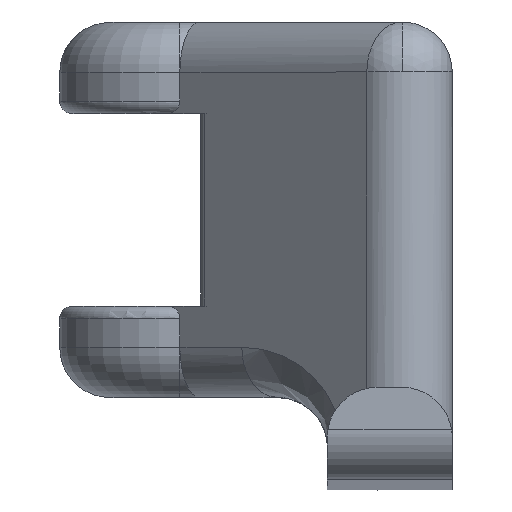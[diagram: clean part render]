
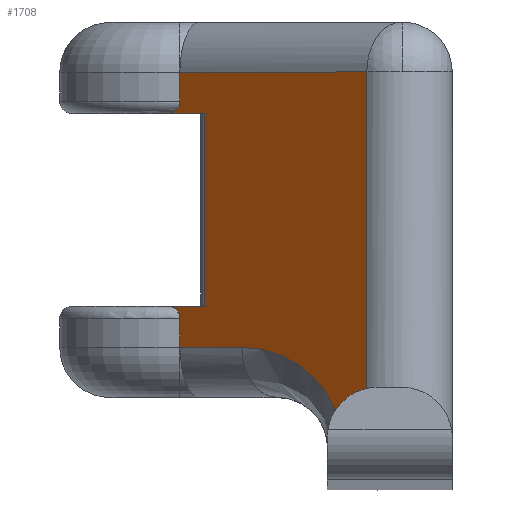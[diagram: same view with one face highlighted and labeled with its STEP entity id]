
A CAD part, top view. The second image highlights one B-rep face of the part: STEP entity #1708.
In plain terms, the highlighted planar face has unit normal (-0.707, 0, 0.707).
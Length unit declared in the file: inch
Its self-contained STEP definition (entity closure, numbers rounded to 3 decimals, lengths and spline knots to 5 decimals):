
#5 = CARTESIAN_POINT ( 'NONE',  ( 0.54451, 0.1825, 0.78467 ) ) ;
#56 = DIRECTION ( 'NONE',  ( 0.707, 0., 0.707 ) ) ;
#87 = CARTESIAN_POINT ( 'NONE',  ( -0.0151, 0.18041, 0.22506 ) ) ;
#114 = CARTESIAN_POINT ( 'NONE',  ( -0.02666, 0.1825, 0.2135 ) ) ;
#125 = DIRECTION ( 'NONE',  ( -0.707, 0., -0.707 ) ) ;
#128 = CARTESIAN_POINT ( 'NONE',  ( -0.00704, 0.57491, 0.23311 ) ) ;
#151 = DIRECTION ( 'NONE',  ( -0.707, 0., -0.707 ) ) ;
#153 = VECTOR ( 'NONE', #710, 39.37008 ) ;
#163 = CARTESIAN_POINT ( 'NONE',  ( -0.0237, 0.5675, 0.21645 ) ) ;
#167 = EDGE_CURVE ( 'NONE', #456, #1508, #530, .T. ) ;
#192 =( BOUNDED_CURVE ( )  B_SPLINE_CURVE ( 3, ( #667, #364, #353, #498 ),
 .UNSPECIFIED., .F., .T. ) 
 B_SPLINE_CURVE_WITH_KNOTS ( ( 4, 4 ),
 ( 0.64441, 1.36218 ),
 .UNSPECIFIED. ) 
 CURVE ( )  GEOMETRIC_REPRESENTATION_ITEM ( )  RATIONAL_B_SPLINE_CURVE ( ( 1., 0.958, 0.958, 1. ) ) 
 REPRESENTATION_ITEM ( '' )  );
#203 = B_SPLINE_CURVE_WITH_KNOTS ( 'NONE', 3,
 ( #893, #904, #1072, #1510, #128, #1547, #1223, #778, #163, #1390 ),
 .UNSPECIFIED., .F., .F.,
 ( 4, 2, 2, 2, 4 ),
 ( 0., 0.00032, 0.00063, 0.00095, 0.00127 ),
 .UNSPECIFIED. ) ;
#226 = CARTESIAN_POINT ( 'NONE',  ( 0., 0.1, 0.24016 ) ) ;
#291 = VERTEX_POINT ( 'NONE', #1513 ) ;
#314 = ORIENTED_EDGE ( 'NONE', *, *, #1187, .T. ) ;
#315 = CARTESIAN_POINT ( 'NONE',  ( 0.3738, -0.00217, 0.61396 ) ) ;
#327 = CARTESIAN_POINT ( 'NONE',  ( 0., 1.9105, 0.24016 ) ) ;
#330 = CARTESIAN_POINT ( 'NONE',  ( 0.31456, -0.03993, 0.55472 ) ) ;
#333 = DIRECTION ( 'NONE',  ( -0.707, 0., -0.707 ) ) ;
#343 = CARTESIAN_POINT ( 'NONE',  ( 0.54451, 0.65, 0.78467 ) ) ;
#353 = CARTESIAN_POINT ( 'NONE',  ( 0.34987, -0.00723, 0.59003 ) ) ;
#364 = CARTESIAN_POINT ( 'NONE',  ( 0.32925, -0.02038, 0.56941 ) ) ;
#414 = CARTESIAN_POINT ( 'NONE',  ( -0.0237, 0.1825, 0.21645 ) ) ;
#417 = ORIENTED_EDGE ( 'NONE', *, *, #830, .T. ) ;
#456 = VERTEX_POINT ( 'NONE', #315 ) ;
#498 = CARTESIAN_POINT ( 'NONE',  ( 0.3738, -0.00217, 0.61396 ) ) ;
#516 = EDGE_CURVE ( 'NONE', #1975, #1511, #1571, .T. ) ;
#524 = CARTESIAN_POINT ( 'NONE',  ( 0., 0.65, 0.24016 ) ) ;
#530 = LINE ( 'NONE', #1155, #585 ) ;
#560 = CARTESIAN_POINT ( 'NONE',  ( 0., 0.1575, 0.24016 ) ) ;
#569 = CARTESIAN_POINT ( 'NONE',  ( -0.01226, 0.17905, 0.2279 ) ) ;
#570 = CARTESIAN_POINT ( 'NONE',  ( 0.28736, 0.04644, 0.52752 ) ) ;
#585 = VECTOR ( 'NONE', #1942, 39.37008 ) ;
#586 = VERTEX_POINT ( 'NONE', #226 ) ;
#632 = CARTESIAN_POINT ( 'NONE',  ( -0.02666, 0.1825, 0.2135 ) ) ;
#636 = EDGE_CURVE ( 'NONE', #1674, #456, #192, .T. ) ;
#667 = CARTESIAN_POINT ( 'NONE',  ( 0.31456, -0.03993, 0.55472 ) ) ;
#668 = ORIENTED_EDGE ( 'NONE', *, *, #887, .T. ) ;
#669 = CARTESIAN_POINT ( 'NONE',  ( 0.04931, 0.1825, 0.28947 ) ) ;
#671 = LINE ( 'NONE', #1300, #1937 ) ;
#702 = CARTESIAN_POINT ( 'NONE',  ( -0.00707, 0.17512, 0.23308 ) ) ;
#710 = DIRECTION ( 'NONE',  ( 0., -1., 0. ) ) ;
#717 = CARTESIAN_POINT ( 'NONE',  ( 0.04931, 1.9105, 0.28947 ) ) ;
#722 = ORIENTED_EDGE ( 'NONE', *, *, #1339, .T. ) ;
#737 = EDGE_LOOP ( 'NONE', ( #417, #784, #722, #314, #1368, #668, #1271, #1230, #841, #903, #922, #1381 ) ) ;
#753 = VECTOR ( 'NONE', #333, 39.37008 ) ;
#774 = DIRECTION ( 'NONE',  ( 0., -1., 0. ) ) ;
#778 = CARTESIAN_POINT ( 'NONE',  ( -0.02078, 0.56788, 0.21938 ) ) ;
#784 = ORIENTED_EDGE ( 'NONE', *, *, #1926, .T. ) ;
#794 = CARTESIAN_POINT ( 'NONE',  ( 0.04931, 0.5675, 0.28947 ) ) ;
#830 = EDGE_CURVE ( 'NONE', #1536, #1224, #1951, .T. ) ;
#841 = ORIENTED_EDGE ( 'NONE', *, *, #1185, .T. ) ;
#887 = EDGE_CURVE ( 'NONE', #1530, #1674, #1794, .T. ) ;
#890 = LINE ( 'NONE', #1509, #1564 ) ;
#893 = CARTESIAN_POINT ( 'NONE',  ( 0., 0.5925, 0.24016 ) ) ;
#899 = VECTOR ( 'NONE', #151, 39.37008 ) ;
#903 = ORIENTED_EDGE ( 'NONE', *, *, #516, .T. ) ;
#904 = CARTESIAN_POINT ( 'NONE',  ( 0., 0.58828, 0.24016 ) ) ;
#922 = ORIENTED_EDGE ( 'NONE', *, *, #1112, .T. ) ;
#970 = AXIS2_PLACEMENT_3D ( 'NONE', #1004, #1580, #56 ) ;
#989 = DIRECTION ( 'NONE',  ( 0., -1., 0. ) ) ;
#1004 = CARTESIAN_POINT ( 'NONE',  ( 0.54451, 1.9105, 0.78467 ) ) ;
#1072 = CARTESIAN_POINT ( 'NONE',  ( -0.0011, 0.58424, 0.23906 ) ) ;
#1104 = CARTESIAN_POINT ( 'NONE',  ( 0.1238, 0.1, 0.36396 ) ) ;
#1111 = PLANE ( 'NONE',  #970 ) ;
#1112 = EDGE_CURVE ( 'NONE', #1511, #291, #203, .T. ) ;
#1155 = CARTESIAN_POINT ( 'NONE',  ( 0.3738, 1.9105, 0.61396 ) ) ;
#1185 = EDGE_CURVE ( 'NONE', #1508, #1975, #1728, .T. ) ;
#1187 = EDGE_CURVE ( 'NONE', #1852, #586, #1748, .T. ) ;
#1223 = CARTESIAN_POINT ( 'NONE',  ( -0.01502, 0.56962, 0.22514 ) ) ;
#1224 = VERTEX_POINT ( 'NONE', #669 ) ;
#1230 = ORIENTED_EDGE ( 'NONE', *, *, #167, .T. ) ;
#1271 = ORIENTED_EDGE ( 'NONE', *, *, #636, .T. ) ;
#1300 = CARTESIAN_POINT ( 'NONE',  ( 0.19451, 0.1, 0.43467 ) ) ;
#1328 = CARTESIAN_POINT ( 'NONE',  ( 0.31456, -0.03993, 0.55472 ) ) ;
#1339 = EDGE_CURVE ( 'NONE', #1868, #1852, #1669, .T. ) ;
#1367 = CARTESIAN_POINT ( 'NONE',  ( 0., 0.1575, 0.24016 ) ) ;
#1368 = ORIENTED_EDGE ( 'NONE', *, *, #1780, .T. ) ;
#1379 = CARTESIAN_POINT ( 'NONE',  ( 0.3738, 0.65, 0.61396 ) ) ;
#1381 = ORIENTED_EDGE ( 'NONE', *, *, #1515, .F. ) ;
#1390 = CARTESIAN_POINT ( 'NONE',  ( -0.02666, 0.5675, 0.2135 ) ) ;
#1451 = CARTESIAN_POINT ( 'NONE',  ( 0., 1.9105, 0.24016 ) ) ;
#1479 = CARTESIAN_POINT ( 'NONE',  ( 0.1238, 0.1, 0.36396 ) ) ;
#1490 = CARTESIAN_POINT ( 'NONE',  ( 0., 0.16173, 0.24016 ) ) ;
#1508 = VERTEX_POINT ( 'NONE', #1379 ) ;
#1509 = CARTESIAN_POINT ( 'NONE',  ( 0.54451, 0.5675, 0.78467 ) ) ;
#1510 = CARTESIAN_POINT ( 'NONE',  ( -0.00466, 0.57753, 0.2355 ) ) ;
#1511 = VERTEX_POINT ( 'NONE', #1986 ) ;
#1513 = CARTESIAN_POINT ( 'NONE',  ( -0.02666, 0.5675, 0.2135 ) ) ;
#1515 = EDGE_CURVE ( 'NONE', #1536, #291, #890, .T. ) ;
#1530 = VERTEX_POINT ( 'NONE', #1104 ) ;
#1536 = VERTEX_POINT ( 'NONE', #794 ) ;
#1547 = CARTESIAN_POINT ( 'NONE',  ( -0.01222, 0.57097, 0.22794 ) ) ;
#1564 = VECTOR ( 'NONE', #125, 39.37008 ) ;
#1571 = LINE ( 'NONE', #327, #1953 ) ;
#1580 = DIRECTION ( 'NONE',  ( -0.707, 0., 0.707 ) ) ;
#1608 = CARTESIAN_POINT ( 'NONE',  ( 0.21435, 0.1, 0.45451 ) ) ;
#1644 = CARTESIAN_POINT ( 'NONE',  ( -0.00469, 0.1725, 0.23547 ) ) ;
#1663 = LINE ( 'NONE', #5, #899 ) ;
#1669 = B_SPLINE_CURVE_WITH_KNOTS ( 'NONE', 3,
 ( #114, #414, #1791, #87, #569, #702, #1644, #1782, #1490, #560 ),
 .UNSPECIFIED., .F., .F.,
 ( 4, 2, 2, 2, 4 ),
 ( 0., 0.00031, 0.00063, 0.00094, 0.00125 ),
 .UNSPECIFIED. ) ;
#1674 = VERTEX_POINT ( 'NONE', #330 ) ;
#1708 = ADVANCED_FACE ( 'NONE', ( #1740 ), #1111, .T. ) ;
#1720 = DIRECTION ( 'NONE',  ( 0.707, 0., 0.707 ) ) ;
#1728 = LINE ( 'NONE', #343, #753 ) ;
#1740 = FACE_OUTER_BOUND ( 'NONE', #737, .T. ) ;
#1748 = LINE ( 'NONE', #1451, #1758 ) ;
#1758 = VECTOR ( 'NONE', #989, 39.37008 ) ;
#1780 = EDGE_CURVE ( 'NONE', #586, #1530, #671, .T. ) ;
#1782 = CARTESIAN_POINT ( 'NONE',  ( -0.00112, 0.16582, 0.23904 ) ) ;
#1791 = CARTESIAN_POINT ( 'NONE',  ( -0.0208, 0.18211, 0.21936 ) ) ;
#1794 =( BOUNDED_CURVE ( )  B_SPLINE_CURVE ( 3, ( #1479, #1608, #570, #1328 ),
 .UNSPECIFIED., .F., .T. ) 
 B_SPLINE_CURVE_WITH_KNOTS ( ( 4, 4 ),
 ( 4.71239, 5.97811 ),
 .UNSPECIFIED. ) 
 CURVE ( )  GEOMETRIC_REPRESENTATION_ITEM ( )  RATIONAL_B_SPLINE_CURVE ( ( 1., 0.871, 0.871, 1. ) ) 
 REPRESENTATION_ITEM ( '' )  );
#1852 = VERTEX_POINT ( 'NONE', #1367 ) ;
#1868 = VERTEX_POINT ( 'NONE', #632 ) ;
#1926 = EDGE_CURVE ( 'NONE', #1224, #1868, #1663, .T. ) ;
#1937 = VECTOR ( 'NONE', #1720, 39.37008 ) ;
#1942 = DIRECTION ( 'NONE',  ( 0., 1., 0. ) ) ;
#1951 = LINE ( 'NONE', #717, #153 ) ;
#1953 = VECTOR ( 'NONE', #774, 39.37008 ) ;
#1975 = VERTEX_POINT ( 'NONE', #524 ) ;
#1986 = CARTESIAN_POINT ( 'NONE',  ( 0., 0.5925, 0.24016 ) ) ;
